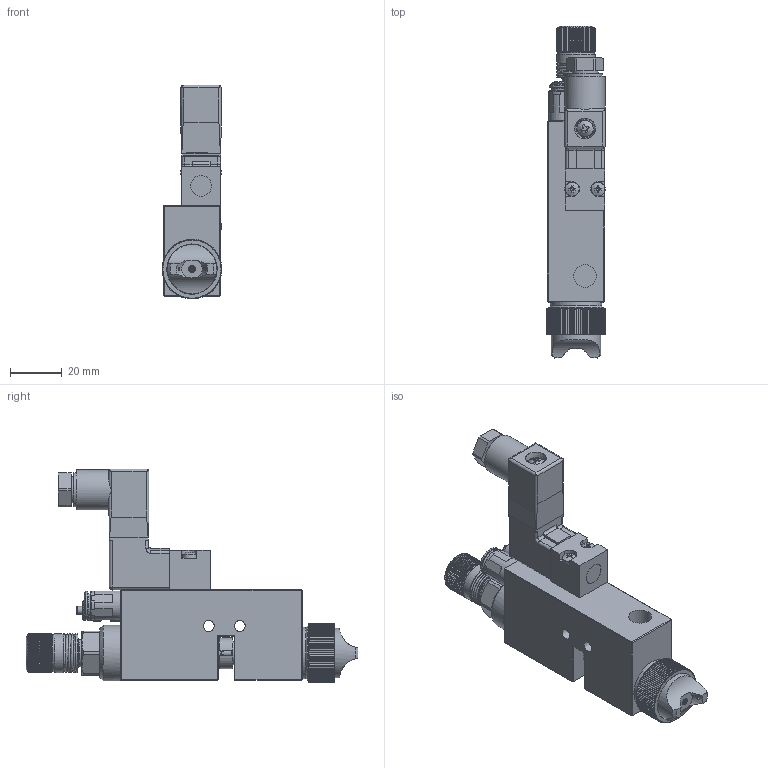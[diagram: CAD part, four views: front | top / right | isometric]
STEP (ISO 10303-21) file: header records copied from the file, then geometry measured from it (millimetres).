
FILE_DESCRIPTION (( 'STEP AP214' ), '1' );
FILE_NAME ('DAS-100EV-CO.STEP', '2024-10-11T10:14:32', ( '' ), ( '' ), 'SwSTEP 2.0', 'SolidWorks 2024', '' );
FILE_SCHEMA (( 'AUTOMOTIVE_DESIGN' ));
Length unit declared in the file: millimetre
Products named in the file (1): DAS-100EV-CO
Bounding box: 23 x 128.1 x 82.5 mm (x, y, z)
Volume: 81428.8 mm3; surface area: 28392 mm2
Topology: 5 solids, 12 shells, 1320 faces, 3475 edges, 2207 vertices
Faces by surface type: plane 502, cylinder 478, cone 309, bspline 31
Full cylindrical faces by diameter (mm): 0.5 x1, 1 x3, 1.5 x4, 1.6 x1, 1.9 x2, 2 x1, 2.05 x2, 2.4 x1, 2.5 x1, 3 x5, 3.2 x2, 3.3 x1, 3.5 x4, 3.585 x1, 4.2 x2, 5 x1, 5.15 x1, 5.5 x1, 5.6 x2, 6 x2, 7 x1, 7.169 x1, 7.5 x1, 7.8 x1, 8.053 x1, 8.8 x2, 8.85 x1, 9 x1, 10 x2, 10.5 x1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
Entity records: 56113 total; most frequent: CARTESIAN_POINT 27269, ORIENTED_EDGE 6538, DIRECTION 4879, EDGE_CURVE 3269, VERTEX_POINT 2131, AXIS2_PLACEMENT_3D 1843, EDGE_LOOP 1520, B_SPLINE_CURVE_WITH_KNOTS 1503
